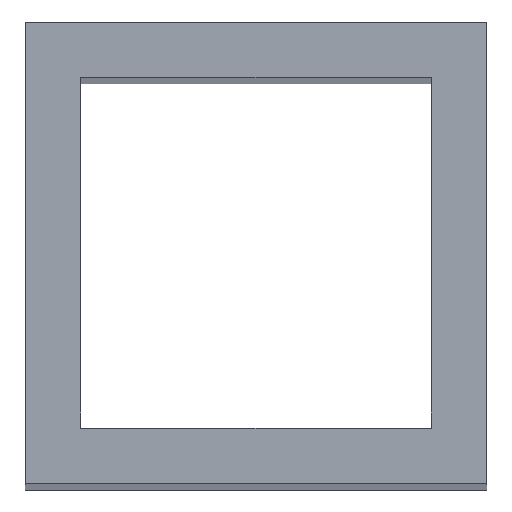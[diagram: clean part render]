
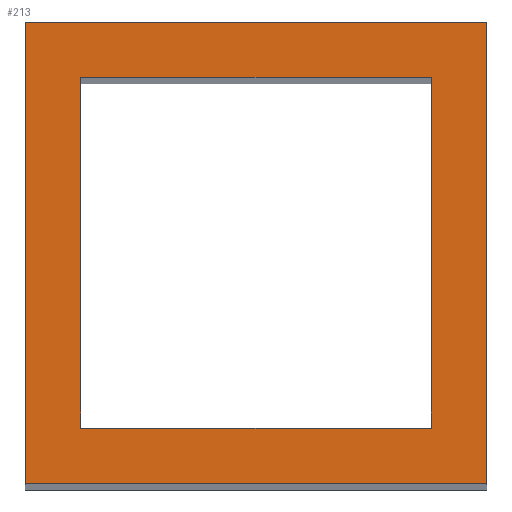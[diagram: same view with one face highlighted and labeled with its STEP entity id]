
A CAD part, top view. The second image highlights one B-rep face of the part: STEP entity #213.
In plain terms, the highlighted planar face has unit normal (0, 0, 1).
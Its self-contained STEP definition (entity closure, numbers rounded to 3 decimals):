
#24 = VERTEX_POINT('',#25);
#25 = CARTESIAN_POINT('',(197.5,-247.5,209.));
#32 = PLANE('',#33);
#33 = AXIS2_PLACEMENT_3D('',#34,#35,#36);
#34 = CARTESIAN_POINT('',(197.5,-247.5,4.));
#35 = DIRECTION('',(1.,0.,-0.));
#36 = DIRECTION('',(0.,0.,1.));
#44 = PLANE('',#45);
#45 = AXIS2_PLACEMENT_3D('',#46,#47,#48);
#46 = CARTESIAN_POINT('',(197.5,-247.5,4.));
#47 = DIRECTION('',(-0.,1.,0.));
#48 = DIRECTION('',(0.,0.,1.));
#85 = VERTEX_POINT('',#86);
#86 = CARTESIAN_POINT('',(197.5,-222.5,209.));
#100 = PLANE('',#101);
#101 = AXIS2_PLACEMENT_3D('',#102,#103,#104);
#102 = CARTESIAN_POINT('',(197.5,-222.5,4.));
#103 = DIRECTION('',(-0.,1.,0.));
#104 = DIRECTION('',(0.,0.,1.));
#112 = EDGE_CURVE('',#24,#85,#113,.T.);
#113 = SURFACE_CURVE('',#114,(#118,#125),.PCURVE_S1.);
#114 = LINE('',#115,#116);
#115 = CARTESIAN_POINT('',(197.5,-247.5,209.));
#116 = VECTOR('',#117,1.);
#117 = DIRECTION('',(-0.,1.,0.));
#118 = PCURVE('',#32,#119);
#119 = DEFINITIONAL_REPRESENTATION('',(#120),#124);
#120 = LINE('',#121,#122);
#121 = CARTESIAN_POINT('',(205.,0.));
#122 = VECTOR('',#123,1.);
#123 = DIRECTION('',(0.,-1.));
#124 = ( GEOMETRIC_REPRESENTATION_CONTEXT(2) 
PARAMETRIC_REPRESENTATION_CONTEXT() REPRESENTATION_CONTEXT('2D SPACE',''
  ) );
#125 = PCURVE('',#126,#131);
#126 = PLANE('',#127);
#127 = AXIS2_PLACEMENT_3D('',#128,#129,#130);
#128 = CARTESIAN_POINT('',(197.5,-247.5,209.));
#129 = DIRECTION('',(0.,0.,1.));
#130 = DIRECTION('',(1.,0.,-0.));
#131 = DEFINITIONAL_REPRESENTATION('',(#132),#136);
#132 = LINE('',#133,#134);
#133 = CARTESIAN_POINT('',(0.,0.));
#134 = VECTOR('',#135,1.);
#135 = DIRECTION('',(0.,1.));
#136 = ( GEOMETRIC_REPRESENTATION_CONTEXT(2) 
PARAMETRIC_REPRESENTATION_CONTEXT() REPRESENTATION_CONTEXT('2D SPACE',''
  ) );
#165 = EDGE_CURVE('',#24,#166,#168,.T.);
#166 = VERTEX_POINT('',#167);
#167 = CARTESIAN_POINT('',(222.5,-247.5,209.));
#168 = SURFACE_CURVE('',#169,(#173,#180),.PCURVE_S1.);
#169 = LINE('',#170,#171);
#170 = CARTESIAN_POINT('',(197.5,-247.5,209.));
#171 = VECTOR('',#172,1.);
#172 = DIRECTION('',(1.,0.,-0.));
#173 = PCURVE('',#44,#174);
#174 = DEFINITIONAL_REPRESENTATION('',(#175),#179);
#175 = LINE('',#176,#177);
#176 = CARTESIAN_POINT('',(205.,0.));
#177 = VECTOR('',#178,1.);
#178 = DIRECTION('',(0.,1.));
#179 = ( GEOMETRIC_REPRESENTATION_CONTEXT(2) 
PARAMETRIC_REPRESENTATION_CONTEXT() REPRESENTATION_CONTEXT('2D SPACE',''
  ) );
#180 = PCURVE('',#126,#181);
#181 = DEFINITIONAL_REPRESENTATION('',(#182),#186);
#182 = LINE('',#183,#184);
#183 = CARTESIAN_POINT('',(0.,0.));
#184 = VECTOR('',#185,1.);
#185 = DIRECTION('',(1.,0.));
#186 = ( GEOMETRIC_REPRESENTATION_CONTEXT(2) 
PARAMETRIC_REPRESENTATION_CONTEXT() REPRESENTATION_CONTEXT('2D SPACE',''
  ) );
#202 = PLANE('',#203);
#203 = AXIS2_PLACEMENT_3D('',#204,#205,#206);
#204 = CARTESIAN_POINT('',(222.5,-247.5,4.));
#205 = DIRECTION('',(1.,0.,-0.));
#206 = DIRECTION('',(0.,0.,1.));
#213 = ADVANCED_FACE('',(#214,#262),#126,.T.);
#214 = FACE_BOUND('',#215,.T.);
#215 = EDGE_LOOP('',(#216,#217,#218,#241));
#216 = ORIENTED_EDGE('',*,*,#112,.F.);
#217 = ORIENTED_EDGE('',*,*,#165,.T.);
#218 = ORIENTED_EDGE('',*,*,#219,.T.);
#219 = EDGE_CURVE('',#166,#220,#222,.T.);
#220 = VERTEX_POINT('',#221);
#221 = CARTESIAN_POINT('',(222.5,-222.5,209.));
#222 = SURFACE_CURVE('',#223,(#227,#234),.PCURVE_S1.);
#223 = LINE('',#224,#225);
#224 = CARTESIAN_POINT('',(222.5,-247.5,209.));
#225 = VECTOR('',#226,1.);
#226 = DIRECTION('',(-0.,1.,0.));
#227 = PCURVE('',#126,#228);
#228 = DEFINITIONAL_REPRESENTATION('',(#229),#233);
#229 = LINE('',#230,#231);
#230 = CARTESIAN_POINT('',(25.,0.));
#231 = VECTOR('',#232,1.);
#232 = DIRECTION('',(0.,1.));
#233 = ( GEOMETRIC_REPRESENTATION_CONTEXT(2) 
PARAMETRIC_REPRESENTATION_CONTEXT() REPRESENTATION_CONTEXT('2D SPACE',''
  ) );
#234 = PCURVE('',#202,#235);
#235 = DEFINITIONAL_REPRESENTATION('',(#236),#240);
#236 = LINE('',#237,#238);
#237 = CARTESIAN_POINT('',(205.,0.));
#238 = VECTOR('',#239,1.);
#239 = DIRECTION('',(0.,-1.));
#240 = ( GEOMETRIC_REPRESENTATION_CONTEXT(2) 
PARAMETRIC_REPRESENTATION_CONTEXT() REPRESENTATION_CONTEXT('2D SPACE',''
  ) );
#241 = ORIENTED_EDGE('',*,*,#242,.F.);
#242 = EDGE_CURVE('',#85,#220,#243,.T.);
#243 = SURFACE_CURVE('',#244,(#248,#255),.PCURVE_S1.);
#244 = LINE('',#245,#246);
#245 = CARTESIAN_POINT('',(197.5,-222.5,209.));
#246 = VECTOR('',#247,1.);
#247 = DIRECTION('',(1.,0.,-0.));
#248 = PCURVE('',#126,#249);
#249 = DEFINITIONAL_REPRESENTATION('',(#250),#254);
#250 = LINE('',#251,#252);
#251 = CARTESIAN_POINT('',(0.,25.));
#252 = VECTOR('',#253,1.);
#253 = DIRECTION('',(1.,0.));
#254 = ( GEOMETRIC_REPRESENTATION_CONTEXT(2) 
PARAMETRIC_REPRESENTATION_CONTEXT() REPRESENTATION_CONTEXT('2D SPACE',''
  ) );
#255 = PCURVE('',#100,#256);
#256 = DEFINITIONAL_REPRESENTATION('',(#257),#261);
#257 = LINE('',#258,#259);
#258 = CARTESIAN_POINT('',(205.,0.));
#259 = VECTOR('',#260,1.);
#260 = DIRECTION('',(0.,1.));
#261 = ( GEOMETRIC_REPRESENTATION_CONTEXT(2) 
PARAMETRIC_REPRESENTATION_CONTEXT() REPRESENTATION_CONTEXT('2D SPACE',''
  ) );
#262 = FACE_BOUND('',#263,.T.);
#263 = EDGE_LOOP('',(#264,#292,#318,#344));
#264 = ORIENTED_EDGE('',*,*,#265,.T.);
#265 = EDGE_CURVE('',#266,#268,#270,.T.);
#266 = VERTEX_POINT('',#267);
#267 = CARTESIAN_POINT('',(219.5,-244.5,209.));
#268 = VERTEX_POINT('',#269);
#269 = CARTESIAN_POINT('',(200.5,-244.5,209.));
#270 = SURFACE_CURVE('',#271,(#275,#281),.PCURVE_S1.);
#271 = LINE('',#272,#273);
#272 = CARTESIAN_POINT('',(199.,-244.5,209.));
#273 = VECTOR('',#274,1.);
#274 = DIRECTION('',(-1.,-0.,0.));
#275 = PCURVE('',#126,#276);
#276 = DEFINITIONAL_REPRESENTATION('',(#277),#280);
#277 = B_SPLINE_CURVE_WITH_KNOTS('',1,(#278,#279),.UNSPECIFIED.,.F.,.F.,
  (2,2),(-20.5,-1.5),.PIECEWISE_BEZIER_KNOTS.);
#278 = CARTESIAN_POINT('',(22.,3.));
#279 = CARTESIAN_POINT('',(3.,3.));
#280 = ( GEOMETRIC_REPRESENTATION_CONTEXT(2) 
PARAMETRIC_REPRESENTATION_CONTEXT() REPRESENTATION_CONTEXT('2D SPACE',''
  ) );
#281 = PCURVE('',#282,#287);
#282 = PLANE('',#283);
#283 = AXIS2_PLACEMENT_3D('',#284,#285,#286);
#284 = CARTESIAN_POINT('',(200.5,-244.5,3.));
#285 = DIRECTION('',(-0.,1.,0.));
#286 = DIRECTION('',(0.,0.,1.));
#287 = DEFINITIONAL_REPRESENTATION('',(#288),#291);
#288 = B_SPLINE_CURVE_WITH_KNOTS('',1,(#289,#290),.UNSPECIFIED.,.F.,.F.,
  (2,2),(-20.5,-1.5),.PIECEWISE_BEZIER_KNOTS.);
#289 = CARTESIAN_POINT('',(206.,19.));
#290 = CARTESIAN_POINT('',(206.,0.));
#291 = ( GEOMETRIC_REPRESENTATION_CONTEXT(2) 
PARAMETRIC_REPRESENTATION_CONTEXT() REPRESENTATION_CONTEXT('2D SPACE',''
  ) );
#292 = ORIENTED_EDGE('',*,*,#293,.T.);
#293 = EDGE_CURVE('',#268,#294,#296,.T.);
#294 = VERTEX_POINT('',#295);
#295 = CARTESIAN_POINT('',(200.5,-225.5,209.));
#296 = SURFACE_CURVE('',#297,(#301,#307),.PCURVE_S1.);
#297 = LINE('',#298,#299);
#298 = CARTESIAN_POINT('',(200.5,-246.,209.));
#299 = VECTOR('',#300,1.);
#300 = DIRECTION('',(-0.,1.,0.));
#301 = PCURVE('',#126,#302);
#302 = DEFINITIONAL_REPRESENTATION('',(#303),#306);
#303 = B_SPLINE_CURVE_WITH_KNOTS('',1,(#304,#305),.UNSPECIFIED.,.F.,.F.,
  (2,2),(1.5,20.5),.PIECEWISE_BEZIER_KNOTS.);
#304 = CARTESIAN_POINT('',(3.,3.));
#305 = CARTESIAN_POINT('',(3.,22.));
#306 = ( GEOMETRIC_REPRESENTATION_CONTEXT(2) 
PARAMETRIC_REPRESENTATION_CONTEXT() REPRESENTATION_CONTEXT('2D SPACE',''
  ) );
#307 = PCURVE('',#308,#313);
#308 = PLANE('',#309);
#309 = AXIS2_PLACEMENT_3D('',#310,#311,#312);
#310 = CARTESIAN_POINT('',(200.5,-244.5,3.));
#311 = DIRECTION('',(1.,0.,-0.));
#312 = DIRECTION('',(0.,0.,1.));
#313 = DEFINITIONAL_REPRESENTATION('',(#314),#317);
#314 = B_SPLINE_CURVE_WITH_KNOTS('',1,(#315,#316),.UNSPECIFIED.,.F.,.F.,
  (2,2),(1.5,20.5),.PIECEWISE_BEZIER_KNOTS.);
#315 = CARTESIAN_POINT('',(206.,0.));
#316 = CARTESIAN_POINT('',(206.,-19.));
#317 = ( GEOMETRIC_REPRESENTATION_CONTEXT(2) 
PARAMETRIC_REPRESENTATION_CONTEXT() REPRESENTATION_CONTEXT('2D SPACE',''
  ) );
#318 = ORIENTED_EDGE('',*,*,#319,.F.);
#319 = EDGE_CURVE('',#320,#294,#322,.T.);
#320 = VERTEX_POINT('',#321);
#321 = CARTESIAN_POINT('',(219.5,-225.5,209.));
#322 = SURFACE_CURVE('',#323,(#327,#333),.PCURVE_S1.);
#323 = LINE('',#324,#325);
#324 = CARTESIAN_POINT('',(199.,-225.5,209.));
#325 = VECTOR('',#326,1.);
#326 = DIRECTION('',(-1.,-0.,0.));
#327 = PCURVE('',#126,#328);
#328 = DEFINITIONAL_REPRESENTATION('',(#329),#332);
#329 = B_SPLINE_CURVE_WITH_KNOTS('',1,(#330,#331),.UNSPECIFIED.,.F.,.F.,
  (2,2),(-20.5,-1.5),.PIECEWISE_BEZIER_KNOTS.);
#330 = CARTESIAN_POINT('',(22.,22.));
#331 = CARTESIAN_POINT('',(3.,22.));
#332 = ( GEOMETRIC_REPRESENTATION_CONTEXT(2) 
PARAMETRIC_REPRESENTATION_CONTEXT() REPRESENTATION_CONTEXT('2D SPACE',''
  ) );
#333 = PCURVE('',#334,#339);
#334 = PLANE('',#335);
#335 = AXIS2_PLACEMENT_3D('',#336,#337,#338);
#336 = CARTESIAN_POINT('',(200.5,-225.5,3.));
#337 = DIRECTION('',(-0.,1.,0.));
#338 = DIRECTION('',(0.,0.,1.));
#339 = DEFINITIONAL_REPRESENTATION('',(#340),#343);
#340 = B_SPLINE_CURVE_WITH_KNOTS('',1,(#341,#342),.UNSPECIFIED.,.F.,.F.,
  (2,2),(-20.5,-1.5),.PIECEWISE_BEZIER_KNOTS.);
#341 = CARTESIAN_POINT('',(206.,19.));
#342 = CARTESIAN_POINT('',(206.,0.));
#343 = ( GEOMETRIC_REPRESENTATION_CONTEXT(2) 
PARAMETRIC_REPRESENTATION_CONTEXT() REPRESENTATION_CONTEXT('2D SPACE',''
  ) );
#344 = ORIENTED_EDGE('',*,*,#345,.F.);
#345 = EDGE_CURVE('',#266,#320,#346,.T.);
#346 = SURFACE_CURVE('',#347,(#351,#357),.PCURVE_S1.);
#347 = LINE('',#348,#349);
#348 = CARTESIAN_POINT('',(219.5,-246.,209.));
#349 = VECTOR('',#350,1.);
#350 = DIRECTION('',(-0.,1.,0.));
#351 = PCURVE('',#126,#352);
#352 = DEFINITIONAL_REPRESENTATION('',(#353),#356);
#353 = B_SPLINE_CURVE_WITH_KNOTS('',1,(#354,#355),.UNSPECIFIED.,.F.,.F.,
  (2,2),(1.5,20.5),.PIECEWISE_BEZIER_KNOTS.);
#354 = CARTESIAN_POINT('',(22.,3.));
#355 = CARTESIAN_POINT('',(22.,22.));
#356 = ( GEOMETRIC_REPRESENTATION_CONTEXT(2) 
PARAMETRIC_REPRESENTATION_CONTEXT() REPRESENTATION_CONTEXT('2D SPACE',''
  ) );
#357 = PCURVE('',#358,#363);
#358 = PLANE('',#359);
#359 = AXIS2_PLACEMENT_3D('',#360,#361,#362);
#360 = CARTESIAN_POINT('',(219.5,-244.5,3.));
#361 = DIRECTION('',(1.,0.,-0.));
#362 = DIRECTION('',(0.,0.,1.));
#363 = DEFINITIONAL_REPRESENTATION('',(#364),#367);
#364 = B_SPLINE_CURVE_WITH_KNOTS('',1,(#365,#366),.UNSPECIFIED.,.F.,.F.,
  (2,2),(1.5,20.5),.PIECEWISE_BEZIER_KNOTS.);
#365 = CARTESIAN_POINT('',(206.,0.));
#366 = CARTESIAN_POINT('',(206.,-19.));
#367 = ( GEOMETRIC_REPRESENTATION_CONTEXT(2) 
PARAMETRIC_REPRESENTATION_CONTEXT() REPRESENTATION_CONTEXT('2D SPACE',''
  ) );
